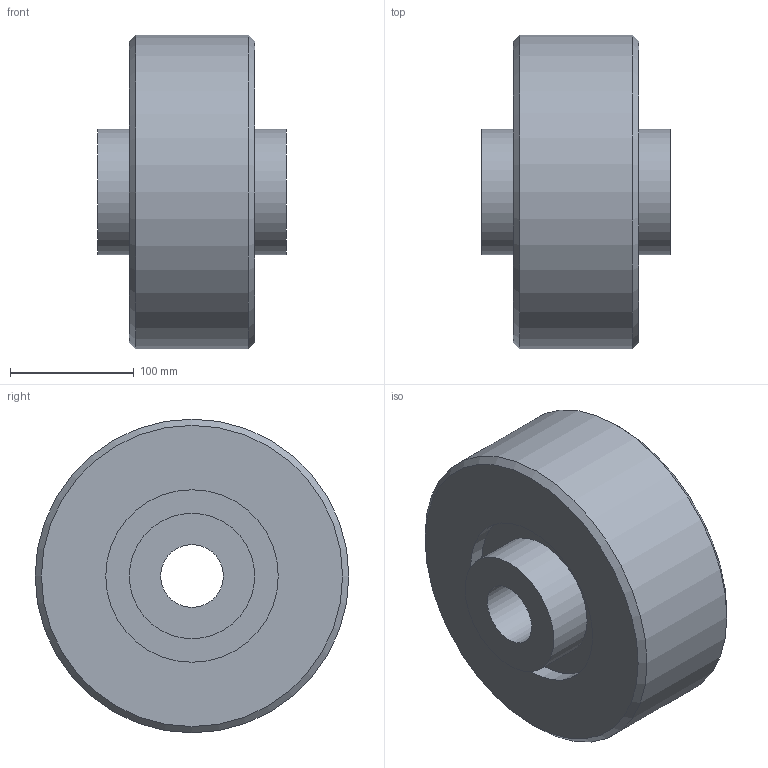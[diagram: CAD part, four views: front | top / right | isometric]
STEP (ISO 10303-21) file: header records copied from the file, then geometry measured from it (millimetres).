
FILE_DESCRIPTION((''),'1');
FILE_NAME('H:/図庫/国内ﾕﾆｯﾄ/ｶﾀﾛｸﾞ/ｸﾘｰﾌﾟﾌﾘｰ/ホームページ用ＣＡＤ図面/3D/update用', '2017-07-12T05:46:22',(''), (''), 'KCM Version 1.1.1442.0', 'Kubotek KeyCreator', '');
FILE_SCHEMA(('AUTOMOTIVE_DESIGN'));
Length unit declared in the file: inch
Bounding box: 152.4 x 254 x 254 mm (x, y, z)
Surface area: 233336.2 mm2 (no closed solid volume)
Topology: 0 solids, 14 shells, 14 faces, 36 edges, 28 vertices
Faces by surface type: cylinder 6, plane 6, cone 2
Full cylindrical faces by diameter (mm): 50.8 x1, 101.6 x2, 139.7 x2, 254 x1
Entity records: 482 total; most frequent: DIRECTION 94, CARTESIAN_POINT 79, ORIENTED_EDGE 44, AXIS2_PLACEMENT_3D 43, EDGE_CURVE 36, VERTEX_POINT 28, CIRCLE 28, EDGE_LOOP 20
